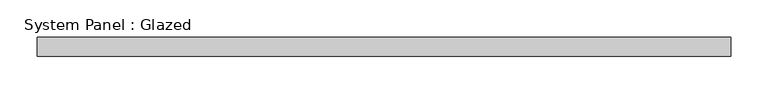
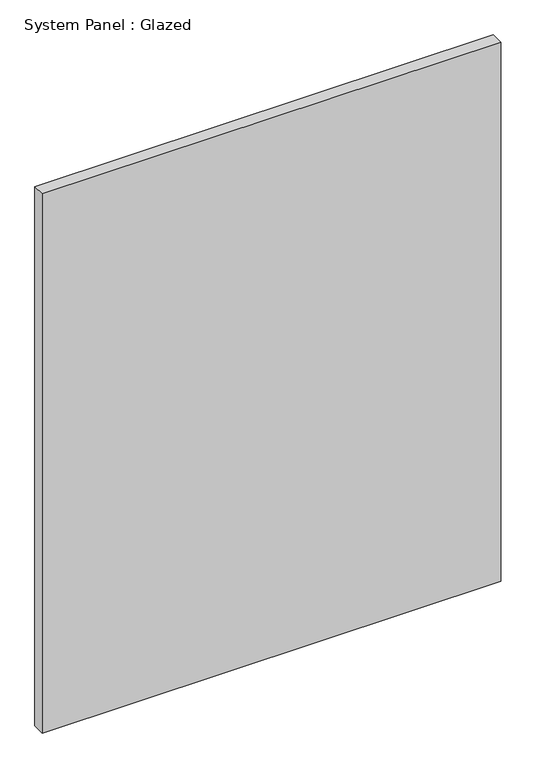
"""IFC4 building model written with IfcOpenShell, lengths in millimetres: plate geometry, System Panel : Glazed."""

from ifc_helpers import new_model, si_unit, origin, origin_with_axes, place, context, project, spatial, polyline, outline, extrude, source, transform, mapped, element, save


def system_panel_glazed_c7e3270c(model_context):
    return source(origin(), model_context, "Body", "SweptSolid", [
        extrude(outline(polyline([(462.5, 24.5), (-462.5, 24.5), (-462.5, 49.5), (462.5, 49.5), (462.5, 24.5)])), origin_with_axes(), (0.0, 0.0, 1.0), 1149.8468786),
    ])


if __name__ == "__main__":
    model = new_model("IFC4")
    model_context = context("Model", 3, world=origin())
    ifc_project = project(units=[si_unit("LENGTHUNIT", "METRE", prefix="MILLI")], contexts=[model_context])
    site = spatial("IfcSite", under=ifc_project)
    building = spatial("IfcBuilding", under=site)
    placement = place(None, origin())
    system_panel_glazed_shape = system_panel_glazed_c7e3270c(model_context)
    element("IfcPlate", 1, ObjectType="System Panel : Glazed", at=placement, inside=building, context=model_context, shape_type="MappedRepresentation", body=[
        mapped(system_panel_glazed_shape, transform((0.0, 0.0, 0.0), x_axis=(1.0, 0.0, 0.0), y_axis=(0.0, 1.0, 0.0), z_axis=(0.0, 0.0, 1.0))),
    ])
    save(model, "model.ifc")
